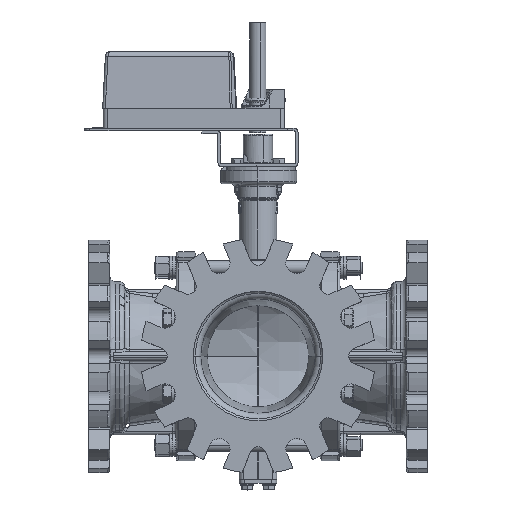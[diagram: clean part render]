
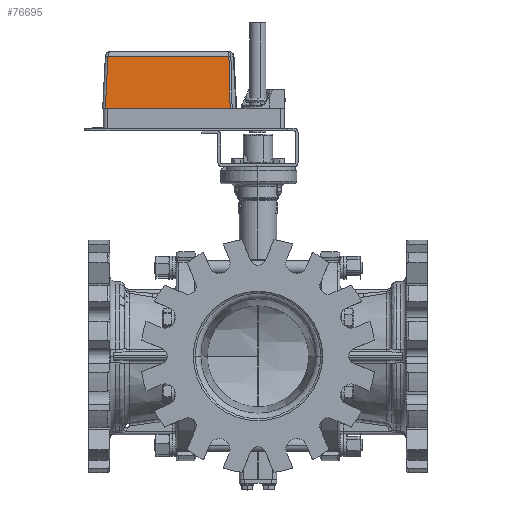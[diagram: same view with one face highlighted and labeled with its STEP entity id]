
A CAD part, top view. The second image highlights one B-rep face of the part: STEP entity #76695.
In plain terms, the highlighted planar face has unit normal (0, 0.052, 0.999).
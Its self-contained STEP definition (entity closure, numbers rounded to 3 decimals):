
#202 = CARTESIAN_POINT ( 'NONE',  ( -33.258, 298.798, 66.488 ) ) ;
#1865 = LINE ( 'NONE', #56829, #2805 ) ;
#2805 = VECTOR ( 'NONE', #70707, 1000. ) ;
#2892 = ORIENTED_EDGE ( 'NONE', *, *, #45464, .T. ) ;
#2926 = CARTESIAN_POINT ( 'NONE',  ( -184.944, 295.237, 66.675 ) ) ;
#7756 = VECTOR ( 'NONE', #40410, 1000. ) ;
#10155 = VECTOR ( 'NONE', #43141, 1000. ) ;
#17273 = VERTEX_POINT ( 'NONE', #57077 ) ;
#18514 = DIRECTION ( 'NONE',  ( 0., -0.999, 0.052 ) ) ;
#24330 = FACE_OUTER_BOUND ( 'NONE', #60290, .T. ) ;
#25971 = EDGE_CURVE ( 'NONE', #53844, #51361, #39098, .T. ) ;
#29423 = ORIENTED_EDGE ( 'NONE', *, *, #83725, .T. ) ;
#30571 = ORIENTED_EDGE ( 'NONE', *, *, #38498, .T. ) ;
#34939 = LINE ( 'NONE', #70703, #64175 ) ;
#38498 = EDGE_CURVE ( 'NONE', #72303, #53844, #49407, .T. ) ;
#39098 = LINE ( 'NONE', #202, #7756 ) ;
#39916 = CARTESIAN_POINT ( 'NONE',  ( -33.174, 295.237, 66.675 ) ) ;
#40410 = DIRECTION ( 'NONE',  ( -0.024, 0.998, -0.052 ) ) ;
#40575 = AXIS2_PLACEMENT_3D ( 'NONE', #78891, #79778, #18514 ) ;
#43141 = DIRECTION ( 'NONE',  ( 1., 0., 0. ) ) ;
#45464 = EDGE_CURVE ( 'NONE', #17273, #72303, #34939, .T. ) ;
#49407 = LINE ( 'NONE', #2926, #10155 ) ;
#49666 = DIRECTION ( 'NONE',  ( -0.052, -0.997, 0.052 ) ) ;
#51361 = VERTEX_POINT ( 'NONE', #76549 ) ;
#51576 = PLANE ( 'NONE',  #40575 ) ;
#53844 = VERTEX_POINT ( 'NONE', #39916 ) ;
#56829 = CARTESIAN_POINT ( 'NONE',  ( -181.403, 356.783, 63.449 ) ) ;
#57077 = CARTESIAN_POINT ( 'NONE',  ( -178.548, 356.783, 63.449 ) ) ;
#60290 = EDGE_LOOP ( 'NONE', ( #30571, #82029, #29423, #2892 ) ) ;
#64175 = VECTOR ( 'NONE', #49666, 1000. ) ;
#67832 = CARTESIAN_POINT ( 'NONE',  ( -181.773, 295.237, 66.675 ) ) ;
#70703 = CARTESIAN_POINT ( 'NONE',  ( -181.782, 295.072, 66.684 ) ) ;
#70707 = DIRECTION ( 'NONE',  ( -1., 0., 0. ) ) ;
#72303 = VERTEX_POINT ( 'NONE', #67832 ) ;
#76549 = CARTESIAN_POINT ( 'NONE',  ( -34.623, 356.783, 63.449 ) ) ;
#76695 = ADVANCED_FACE ( 'NONE', ( #24330 ), #51576, .T. ) ;
#78891 = CARTESIAN_POINT ( 'NONE',  ( -184.944, 295.237, 66.675 ) ) ;
#79778 = DIRECTION ( 'NONE',  ( 0., 0.052, 0.999 ) ) ;
#82029 = ORIENTED_EDGE ( 'NONE', *, *, #25971, .T. ) ;
#83725 = EDGE_CURVE ( 'NONE', #51361, #17273, #1865, .T. ) ;
